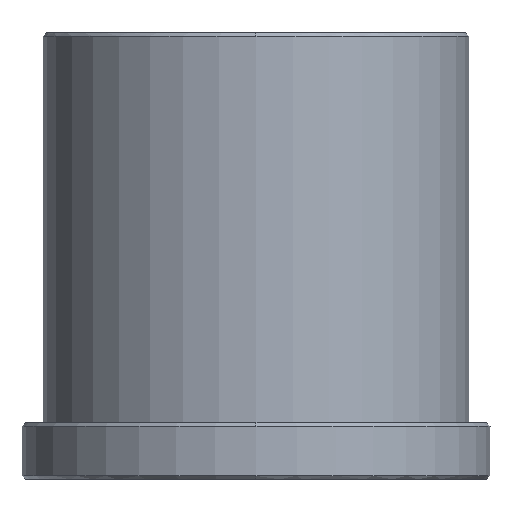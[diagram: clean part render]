
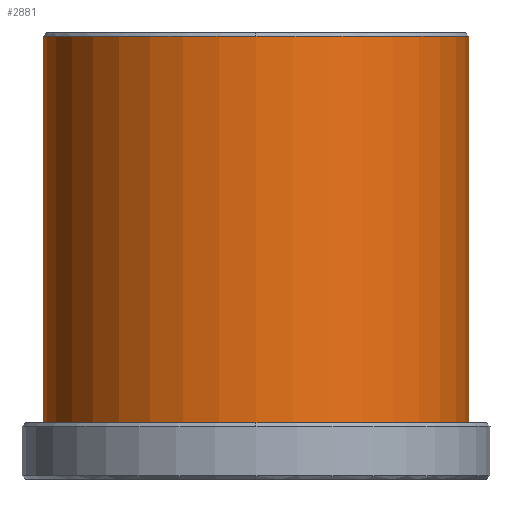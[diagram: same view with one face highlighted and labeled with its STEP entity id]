
A CAD part, front view. The second image highlights one B-rep face of the part: STEP entity #2881.
In plain terms, the highlighted cylindrical face has radius 30 mm (diameter 60 mm), a partial arc.
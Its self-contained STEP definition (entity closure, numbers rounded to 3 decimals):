
#2686=CARTESIAN_POINT('Vertex',(30.,0.,62.5)) ;
#2710=CARTESIAN_POINT('Vertex',(-30.,0.,62.5)) ;
#2734=CARTESIAN_POINT('Vertex',(0.,-30.,62.5)) ;
#2737=CARTESIAN_POINT('Axis2P3D Location',(0.,0.,62.5)) ;
#2754=CARTESIAN_POINT('Axis2P3D Location',(0.,0.,62.5)) ;
#2837=CARTESIAN_POINT('Line Origine',(30.,0.,-3.15)) ;
#2841=CARTESIAN_POINT('Vertex',(30.,0.,8.)) ;
#2848=CARTESIAN_POINT('Vertex',(-30.,0.,8.)) ;
#2851=CARTESIAN_POINT('Line Origine',(-30.,0.,-3.15)) ;
#2864=CARTESIAN_POINT('Axis2P3D Location',(0.,0.,-3.15)) ;
#2869=CARTESIAN_POINT('Axis2P3D Location',(0.,0.,8.)) ;
#2738=DIRECTION('Axis2P3D Direction',(0.,0.,-1.)) ;
#2755=DIRECTION('Axis2P3D Direction',(0.,0.,-1.)) ;
#2838=DIRECTION('Vector Direction',(0.,0.,1.)) ;
#2852=DIRECTION('Vector Direction',(0.,0.,1.)) ;
#2865=DIRECTION('Axis2P3D Direction',(0.,0.,1.)) ;
#2866=DIRECTION('Axis2P3D XDirection',(-1.,0.,0.)) ;
#2870=DIRECTION('Axis2P3D Direction',(0.,0.,1.)) ;
#2739=AXIS2_PLACEMENT_3D('Circle Axis2P3D',#2737,#2738,$) ;
#2756=AXIS2_PLACEMENT_3D('Circle Axis2P3D',#2754,#2755,$) ;
#2867=AXIS2_PLACEMENT_3D('Cylinder Axis2P3D',#2864,#2865,#2866) ;
#2871=AXIS2_PLACEMENT_3D('Circle Axis2P3D',#2869,#2870,$) ;
#2875=ORIENTED_EDGE('',*,*,#2855,.T.) ;
#2876=ORIENTED_EDGE('',*,*,#2873,.F.) ;
#2877=ORIENTED_EDGE('',*,*,#2843,.F.) ;
#2878=ORIENTED_EDGE('',*,*,#2758,.T.) ;
#2879=ORIENTED_EDGE('',*,*,#2741,.T.) ;
#2839=VECTOR('Line Direction',#2838,1.) ;
#2853=VECTOR('Line Direction',#2852,1.) ;
#2881=ADVANCED_FACE('MANIFOLD_SOLID_BREP #2292',(#2880),#2868,.T.) ;
#2740=CIRCLE('generated circle',#2739,30.) ;
#2757=CIRCLE('generated circle',#2756,30.) ;
#2872=CIRCLE('generated circle',#2871,30.) ;
#2868=CYLINDRICAL_SURFACE('generated cylinder',#2867,30.) ;
#2741=EDGE_CURVE('',#2735,#2711,#2740,.T.) ;
#2758=EDGE_CURVE('',#2687,#2735,#2757,.T.) ;
#2843=EDGE_CURVE('',#2687,#2842,#2840,.F.) ;
#2855=EDGE_CURVE('',#2711,#2849,#2854,.F.) ;
#2873=EDGE_CURVE('',#2842,#2849,#2872,.F.) ;
#2874=EDGE_LOOP('',(#2875,#2876,#2877,#2878,#2879)) ;
#2880=FACE_OUTER_BOUND('',#2874,.T.) ;
#2840=LINE('Line',#2837,#2839) ;
#2854=LINE('Line',#2851,#2853) ;
#2687=VERTEX_POINT('',#2686) ;
#2711=VERTEX_POINT('',#2710) ;
#2735=VERTEX_POINT('',#2734) ;
#2842=VERTEX_POINT('',#2841) ;
#2849=VERTEX_POINT('',#2848) ;
